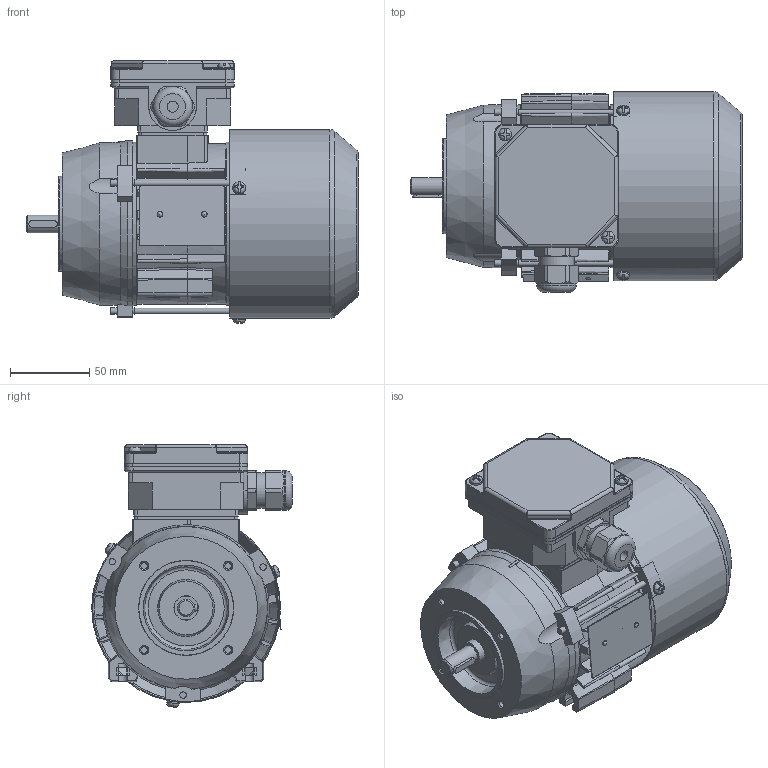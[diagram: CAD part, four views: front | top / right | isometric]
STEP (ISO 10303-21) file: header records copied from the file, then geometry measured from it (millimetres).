
FILE_DESCRIPTION(/* description */ ('Unknown'),/* implementation_level */ '2;1');
FILE_NAME(/* name */ '2SIEK63-4B2',/* time_stamp */ '2021-04-12T11:42:13+02:00',/* author */ ('Unknown'),/* organization */ ('Unknown'),/* preprocessor_version */ 'ST-DEVELOPER v16.7',/* originating_system */ 'Solid Edge',/* authorisation */ 'Unknown');
FILE_SCHEMA (('AUTOMOTIVE_DESIGN {1 0 10303 214 3 1 1}'));
Length unit declared in the file: millimetre
Products named in the file (1): 2SIEK63-4B2
Bounding box: 209.49 x 126.6 x 165.7 mm (x, y, z)
Volume: 473038.6 mm3; surface area: 307180.4 mm2
Topology: 2 solids, 2 shells, 1760 faces, 4950 edges, 3224 vertices
Faces by surface type: plane 893, cylinder 512, cone 126, torus 116, bspline 92, sphere 21
Full cylindrical faces by diameter (mm): 2.4 x2, 3.7 x7, 4 x8, 4.134 x4, 4.5 x3, 4.8 x2, 5 x2, 7 x4, 8 x6, 10.999 x1, 12.899 x1, 13.099 x1, 14.998 x2, 15.4 x2, 18.998 x2, 19.498 x1, 19.998 x1, 20.098 x1, 21.518 x4, 22.3 x1, 25 x1, 28 x2, 28.48 x4, 31 x2, 35 x3, 60 x1, 71.993 x1, 99 x2, 103 x1, 118 x1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
Entity records: 71404 total; most frequent: CARTESIAN_POINT 15580, ORIENTED_EDGE 9306, DIRECTION 8620, EDGE_CURVE 4653, AXIS2_PLACEMENT_3D 3184, VERTEX_POINT 3120, LINE 2252, VECTOR 2252
